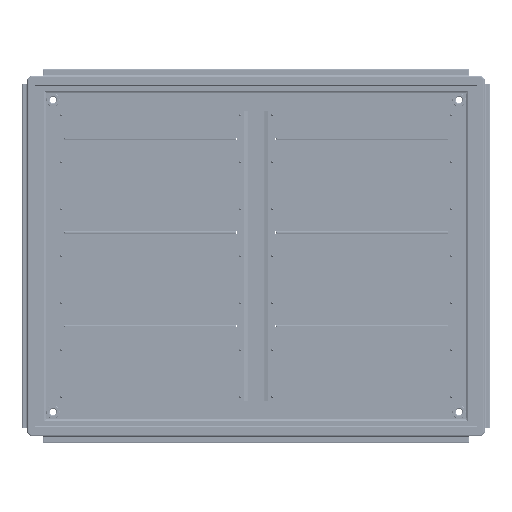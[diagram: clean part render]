
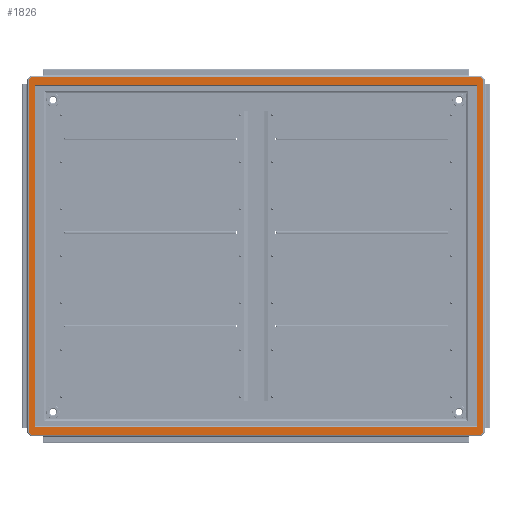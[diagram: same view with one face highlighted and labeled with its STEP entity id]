
A CAD part, front view. The second image highlights one B-rep face of the part: STEP entity #1826.
In plain terms, the highlighted planar face has unit normal (0, -1, 0).
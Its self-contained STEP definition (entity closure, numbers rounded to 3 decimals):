
#1826=ADVANCED_FACE('',(#41873,#41875),#41877,.T.);
#41873=FACE_BOUND('',#41874,.T.);
#41874=EDGE_LOOP('',(#127807,#127808,#127809,#127810,#127811,#127812,#127813,#127814));
#41875=FACE_BOUND('',#41876,.T.);
#41876=EDGE_LOOP('',(#127815,#127816,#127817,#127818));
#41877=PLANE('',#41878);
#41878=AXIS2_PLACEMENT_3D('',#41879,#41880,#41881);
#41879=CARTESIAN_POINT('',(262.2,0.,-564.9));
#41880=DIRECTION('',(0.,-1.,0.));
#41881=DIRECTION('',(0.,0.,1.));
#127807=ORIENTED_EDGE('',*,*,#178405,.F.);
#127808=ORIENTED_EDGE('',*,*,#178406,.F.);
#127809=ORIENTED_EDGE('',*,*,#178407,.T.);
#127810=ORIENTED_EDGE('',*,*,#178408,.T.);
#127811=ORIENTED_EDGE('',*,*,#178409,.F.);
#127812=ORIENTED_EDGE('',*,*,#178410,.T.);
#127813=ORIENTED_EDGE('',*,*,#178411,.T.);
#127814=ORIENTED_EDGE('',*,*,#178412,.F.);
#127815=ORIENTED_EDGE('',*,*,#178413,.T.);
#127816=ORIENTED_EDGE('',*,*,#178414,.T.);
#127817=ORIENTED_EDGE('',*,*,#178415,.F.);
#127818=ORIENTED_EDGE('',*,*,#178416,.T.);
#178405=EDGE_CURVE('',#203808,#203809,#203810,.T.);
#178406=EDGE_CURVE('',#203811,#203808,#203812,.T.);
#178407=EDGE_CURVE('',#203811,#203813,#203814,.T.);
#178408=EDGE_CURVE('',#203813,#203815,#203816,.T.);
#178409=EDGE_CURVE('',#203817,#203815,#203818,.T.);
#178410=EDGE_CURVE('',#203817,#203819,#203820,.T.);
#178411=EDGE_CURVE('',#203819,#203821,#203822,.T.);
#178412=EDGE_CURVE('',#203809,#203821,#203823,.T.);
#178413=EDGE_CURVE('',#203824,#203825,#203826,.T.);
#178414=EDGE_CURVE('',#203825,#203827,#203828,.T.);
#178415=EDGE_CURVE('',#203829,#203827,#203830,.T.);
#178416=EDGE_CURVE('',#203829,#203824,#203831,.T.);
#203808=VERTEX_POINT('',#247408);
#203809=VERTEX_POINT('',#247409);
#203810=LINE('',#247410,#247411);
#203811=VERTEX_POINT('',#247413);
#203812=LINE('',#247414,#247415);
#203813=VERTEX_POINT('',#247417);
#203814=LINE('',#247418,#247419);
#203815=VERTEX_POINT('',#247421);
#203816=LINE('',#247422,#247423);
#203817=VERTEX_POINT('',#247425);
#203818=LINE('',#247426,#247427);
#203819=VERTEX_POINT('',#247429);
#203820=LINE('',#247430,#247431);
#203821=VERTEX_POINT('',#247433);
#203822=LINE('',#247434,#247435);
#203823=LINE('',#247437,#247438);
#203824=VERTEX_POINT('',#247440);
#203825=VERTEX_POINT('',#247441);
#203826=LINE('',#247442,#247443);
#203827=VERTEX_POINT('',#247445);
#203828=LINE('',#247446,#247447);
#203829=VERTEX_POINT('',#247449);
#203830=LINE('',#247450,#247451);
#203831=LINE('',#247453,#247454);
#247408=CARTESIAN_POINT('',(566.716,0.,-3.1));
#247409=CARTESIAN_POINT('',(571.9,0.,-8.284));
#247410=CARTESIAN_POINT('',(566.716,0.,-3.1));
#247411=VECTOR('',#247412,1.);
#247412=DIRECTION('',(0.707,0.,-0.707));
#247413=CARTESIAN_POINT('',(-391.716,0.,-3.1));
#247414=CARTESIAN_POINT('',(-391.716,0.,-3.1));
#247415=VECTOR('',#247416,1.);
#247416=DIRECTION('',(1.,0.,0.));
#247417=CARTESIAN_POINT('',(-396.9,0.,-8.284));
#247418=CARTESIAN_POINT('',(-391.716,0.,-3.1));
#247419=VECTOR('',#247420,1.);
#247420=DIRECTION('',(-0.707,0.,-0.707));
#247421=CARTESIAN_POINT('',(-396.9,0.,-759.716));
#247422=CARTESIAN_POINT('',(-396.9,0.,-8.284));
#247423=VECTOR('',#247424,1.);
#247424=DIRECTION('',(0.,0.,-1.));
#247425=CARTESIAN_POINT('',(-391.716,0.,-764.9));
#247426=CARTESIAN_POINT('',(-391.716,0.,-764.9));
#247427=VECTOR('',#247428,1.);
#247428=DIRECTION('',(-0.707,0.,0.707));
#247429=CARTESIAN_POINT('',(566.716,0.,-764.9));
#247430=CARTESIAN_POINT('',(-391.716,0.,-764.9));
#247431=VECTOR('',#247432,1.);
#247432=DIRECTION('',(1.,0.,0.));
#247433=CARTESIAN_POINT('',(571.9,0.,-759.716));
#247434=CARTESIAN_POINT('',(566.716,0.,-764.9));
#247435=VECTOR('',#247436,1.);
#247436=DIRECTION('',(0.707,0.,0.707));
#247437=CARTESIAN_POINT('',(571.9,0.,-8.284));
#247438=VECTOR('',#247439,1.);
#247439=DIRECTION('',(0.,0.,-1.));
#247440=CARTESIAN_POINT('',(-383.591,0.,-19.899));
#247441=CARTESIAN_POINT('',(558.591,0.,-19.899));
#247442=CARTESIAN_POINT('',(-383.591,0.,-19.899));
#247443=VECTOR('',#247444,1.);
#247444=DIRECTION('',(1.,0.,0.));
#247445=CARTESIAN_POINT('',(558.591,0.,-748.101));
#247446=CARTESIAN_POINT('',(558.591,0.,-19.899));
#247447=VECTOR('',#247448,1.);
#247448=DIRECTION('',(0.,0.,-1.));
#247449=CARTESIAN_POINT('',(-383.591,0.,-748.101));
#247450=CARTESIAN_POINT('',(-383.591,0.,-748.101));
#247451=VECTOR('',#247452,1.);
#247452=DIRECTION('',(1.,0.,0.));
#247453=CARTESIAN_POINT('',(-383.591,0.,-748.101));
#247454=VECTOR('',#247455,1.);
#247455=DIRECTION('',(0.,0.,1.));
